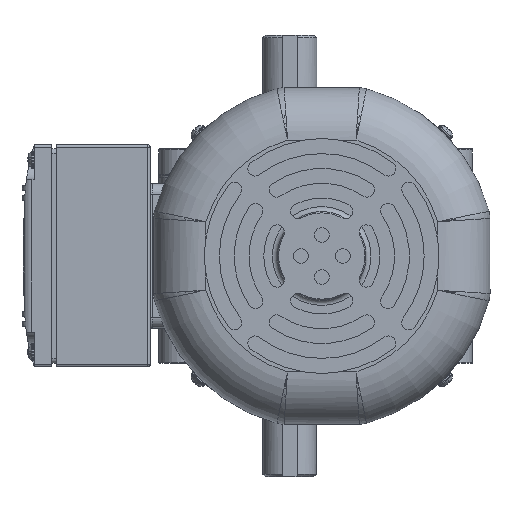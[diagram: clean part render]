
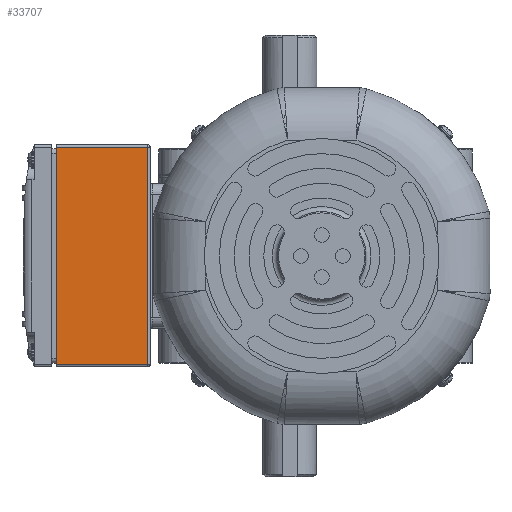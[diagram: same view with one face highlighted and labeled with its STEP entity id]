
A CAD part, left-side view. The second image highlights one B-rep face of the part: STEP entity #33707.
In plain terms, the highlighted planar face has unit normal (-1, 0, 0).
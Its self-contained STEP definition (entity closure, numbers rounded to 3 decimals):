
#700=PLANE('',#35978);
#1934=FACE_OUTER_BOUND('',#3886,.T.);
#3886=EDGE_LOOP('',(#22893,#22894,#22895,#22896));
#8226=LINE('',#52215,#10681);
#8227=LINE('',#52217,#10682);
#8228=LINE('',#52219,#10683);
#8229=LINE('',#52220,#10684);
#10681=VECTOR('',#41127,10.);
#10682=VECTOR('',#41128,10.);
#10683=VECTOR('',#41129,10.);
#10684=VECTOR('',#41130,10.);
#13571=VERTEX_POINT('',#52213);
#13572=VERTEX_POINT('',#52214);
#13573=VERTEX_POINT('',#52216);
#13574=VERTEX_POINT('',#52218);
#17048=EDGE_CURVE('',#13571,#13572,#8226,.T.);
#17049=EDGE_CURVE('',#13573,#13571,#8227,.T.);
#17050=EDGE_CURVE('',#13573,#13574,#8228,.T.);
#17051=EDGE_CURVE('',#13572,#13574,#8229,.T.);
#22893=ORIENTED_EDGE('',*,*,#17048,.F.);
#22894=ORIENTED_EDGE('',*,*,#17049,.F.);
#22895=ORIENTED_EDGE('',*,*,#17050,.T.);
#22896=ORIENTED_EDGE('',*,*,#17051,.F.);
#33707=ADVANCED_FACE('',(#1934),#700,.T.);
#35978=AXIS2_PLACEMENT_3D('',#52212,#41125,#41126);
#41125=DIRECTION('center_axis',(-1.,0.,0.));
#41126=DIRECTION('ref_axis',(0.,1.,0.));
#41127=DIRECTION('',(0.,0.,-1.));
#41128=DIRECTION('',(0.,-1.,0.));
#41129=DIRECTION('',(0.,0.,-1.));
#41130=DIRECTION('',(0.,1.,0.));
#52212=CARTESIAN_POINT('Origin',(-235.,56.5,45.065));
#52213=CARTESIAN_POINT('',(-235.,57.5,44.065));
#52214=CARTESIAN_POINT('',(-235.,57.5,-43.935));
#52215=CARTESIAN_POINT('',(-235.,57.5,22.565));
#52216=CARTESIAN_POINT('',(-235.,94.5,44.065));
#52217=CARTESIAN_POINT('',(-235.,56.5,44.065));
#52218=CARTESIAN_POINT('',(-235.,94.5,-43.935));
#52219=CARTESIAN_POINT('',(-235.,94.5,-44.935));
#52220=CARTESIAN_POINT('',(-235.,56.5,-43.935));
